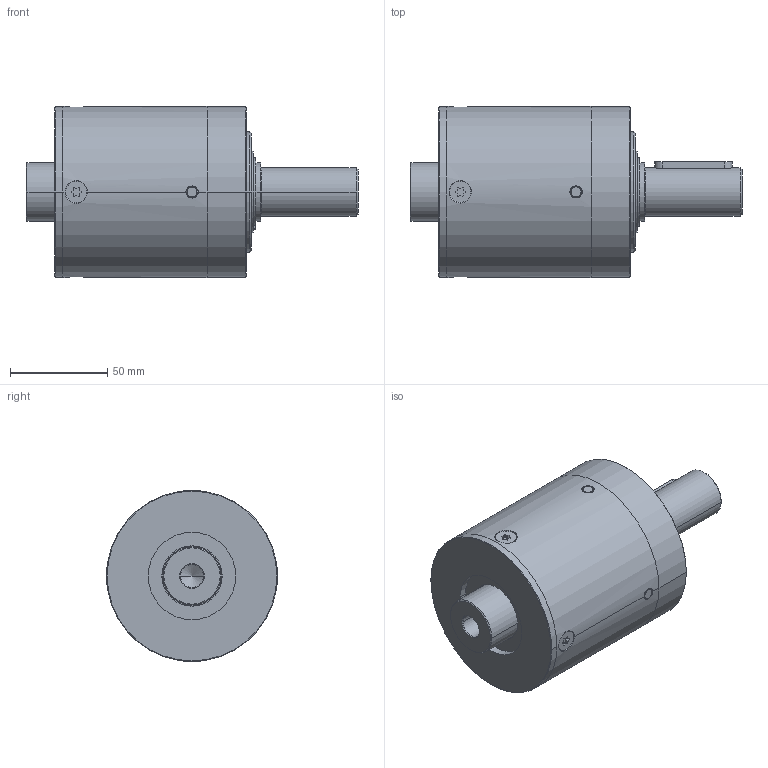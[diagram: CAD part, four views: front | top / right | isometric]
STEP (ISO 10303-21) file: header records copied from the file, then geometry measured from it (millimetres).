
FILE_DESCRIPTION((''),'2;1');
FILE_NAME('IMS88_PRO_MAX_1_STAGE_ASM','2023-07-27T09:47:56',('mhummel'),(''),'CREO PARAMETRIC BY PTC INC, 2020184','CREO PARAMETRIC BY PTC INC, 2020184','');
FILE_SCHEMA(('AUTOMOTIVE_DESIGN { 1 0 10303 214 1 1 1 1 }'));
Length unit declared in the file: millimetre
Products named in the file (16): IMS88_PRO_MAX_BEARIG_FLANGE; IMS88_PRO_MAX_BALL_BEARING; IMS88_PRO_MAX_RING_GEAR_1; IMS88_PRO_MAX_CYLINDER_PIN; IMS88_PRO_MAX_RING_GEAR_1_STAGE_ASM; IMS88_PRO_MAX_MOTOR_FLANGE; IMS88_PRO_MAX_SHAFT_RAW_AF0; IMS88_PRO_MAX_SHAFT_ASM; IMS88_PRO_MAX_SHIM_RING; IMS88_PRO_MAX_RETAINING_RING_A; IMS88_PRO_MAX_FEATHER_KEY; IMS88_PRO_MAX_THRUST_WASHER; IMS88_PRO_MAX_SCREW; IMS88_PRO_MAX_MO_PINION_LONG; IMS88_PRO_MAX_MO_PINION_SHORT; IMS88_PRO_MAX_1_STAGE_ASM
Assembly tree (22 placements, depth 3):
  IMS88_PRO_MAX_1_STAGE_ASM
    IMS88_PRO_MAX_BEARIG_FLANGE
    IMS88_PRO_MAX_BALL_BEARING  x2
    IMS88_PRO_MAX_RING_GEAR_1_STAGE_ASM
      IMS88_PRO_MAX_RING_GEAR_1
      IMS88_PRO_MAX_CYLINDER_PIN  x4
    IMS88_PRO_MAX_MOTOR_FLANGE
    IMS88_PRO_MAX_SHAFT_ASM
      IMS88_PRO_MAX_SHAFT_RAW_AF0
    IMS88_PRO_MAX_SHIM_RING
    IMS88_PRO_MAX_RETAINING_RING_A
    IMS88_PRO_MAX_FEATHER_KEY
    IMS88_PRO_MAX_THRUST_WASHER
    IMS88_PRO_MAX_SCREW  x4
    IMS88_PRO_MAX_MO_PINION_LONG
    IMS88_PRO_MAX_MO_PINION_SHORT
Bounding box: 170.85 x 88 x 88 mm (x, y, z)
Volume: 491175.1 mm3; surface area: 163201.7 mm2
Topology: 24 solids, 26 shells, 492 faces, 1105 edges, 660 vertices
Faces by surface type: cylinder 208, plane 120, cone 88, torus 60, revolution 16
Entity records: 14447 total; most frequent: CARTESIAN_POINT 3140, DIRECTION 1781, ORIENTED_EDGE 1410, PRESENTATION_STYLE_ASSIGNMENT 830, STYLED_ITEM 826, AXIS2_PLACEMENT_3D 745, CURVE_STYLE 709, EDGE_CURVE 705
